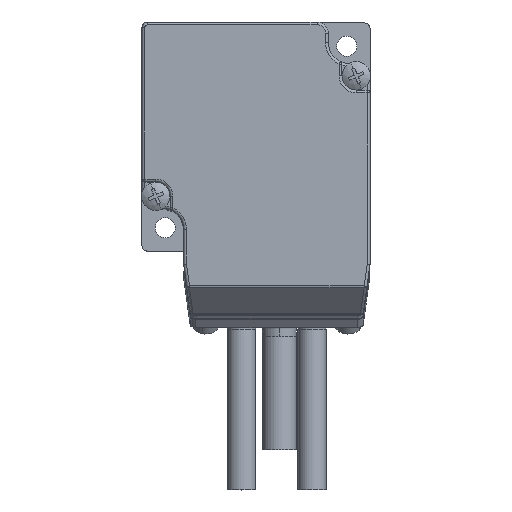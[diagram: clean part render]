
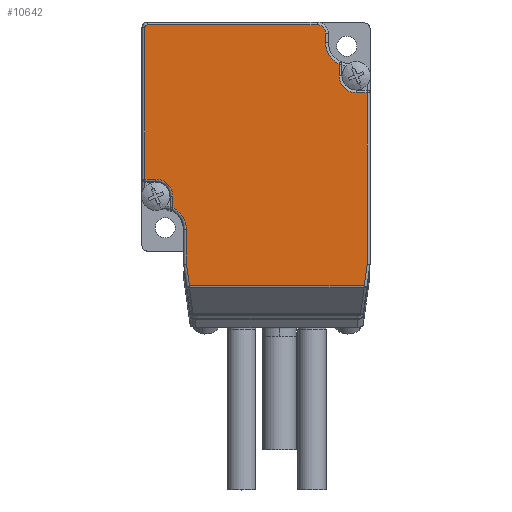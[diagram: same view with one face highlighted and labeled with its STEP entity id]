
A CAD part, top view. The second image highlights one B-rep face of the part: STEP entity #10642.
In plain terms, the highlighted planar face has unit normal (0, 0, 1).
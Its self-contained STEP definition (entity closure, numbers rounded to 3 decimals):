
#95 = ORIENTED_EDGE ( 'NONE', *, *, #609, .T. ) ;
#609 = EDGE_CURVE ( 'NONE', #3854, #14375, #1227, .T. ) ;
#761 = CARTESIAN_POINT ( 'NONE',  ( -14.572, 19., 60.9 ) ) ;
#1070 = VERTEX_POINT ( 'NONE', #21269 ) ;
#1227 = CIRCLE ( 'NONE', #15209, 4.2 ) ;
#1707 = DIRECTION ( 'NONE',  ( 1., 0., 0. ) ) ;
#1866 = ORIENTED_EDGE ( 'NONE', *, *, #14410, .T. ) ;
#1958 = LINE ( 'NONE', #20782, #26775 ) ;
#1984 = CARTESIAN_POINT ( 'NONE',  ( 12.2, 18., 60.9 ) ) ;
#2490 = AXIS2_PLACEMENT_3D ( 'NONE', #27083, #14584, #14411 ) ;
#3113 = CARTESIAN_POINT ( 'NONE',  ( 16.4, 16.4, 60.9 ) ) ;
#3388 = AXIS2_PLACEMENT_3D ( 'NONE', #13321, #19826, #15585 ) ;
#3522 = VERTEX_POINT ( 'NONE', #6889 ) ;
#3734 = CARTESIAN_POINT ( 'NONE',  ( -19.5, 19., 60.9 ) ) ;
#3836 = EDGE_CURVE ( 'NONE', #9169, #21078, #3957, .T. ) ;
#3854 = VERTEX_POINT ( 'NONE', #8298 ) ;
#3957 = LINE ( 'NONE', #17968, #23207 ) ;
#4026 = LINE ( 'NONE', #9493, #22637 ) ;
#4057 = DIRECTION ( 'NONE',  ( -1., 0., 0. ) ) ;
#4165 = CIRCLE ( 'NONE', #8704, 3. ) ;
#4670 = ORIENTED_EDGE ( 'NONE', *, *, #3836, .T. ) ;
#4737 = CARTESIAN_POINT ( 'NONE',  ( 17.572, 7.558, 60.9 ) ) ;
#4949 = AXIS2_PLACEMENT_3D ( 'NONE', #6168, #16475, #20647 ) ;
#5004 = CIRCLE ( 'NONE', #3388, 1.5 ) ;
#5389 = CARTESIAN_POINT ( 'NONE',  ( 19.5, 7.558, 60.9 ) ) ;
#5551 = CARTESIAN_POINT ( 'NONE',  ( -17.572, -7.558, 60.9 ) ) ;
#5705 = CARTESIAN_POINT ( 'NONE',  ( 14.572, 10.558, 60.9 ) ) ;
#5744 = DIRECTION ( 'NONE',  ( 0.139, 0.99, 0. ) ) ;
#6117 = DIRECTION ( 'NONE',  ( 0., 1., 0. ) ) ;
#6168 = CARTESIAN_POINT ( 'NONE',  ( 19., 19., 60.9 ) ) ;
#6170 = LINE ( 'NONE', #7996, #18229 ) ;
#6282 = VECTOR ( 'NONE', #19597, 1000. ) ;
#6538 = ORIENTED_EDGE ( 'NONE', *, *, #15326, .T. ) ;
#6566 = VECTOR ( 'NONE', #26630, 1000. ) ;
#6863 = EDGE_CURVE ( 'NONE', #9538, #8492, #4165, .T. ) ;
#6889 = CARTESIAN_POINT ( 'NONE',  ( -12.2, -22.465, 60.9 ) ) ;
#6957 = CIRCLE ( 'NONE', #7328, 0.5 ) ;
#7018 = EDGE_CURVE ( 'NONE', #25777, #9169, #6170, .T. ) ;
#7041 = DIRECTION ( 'NONE',  ( 0., 0., 1. ) ) ;
#7175 = ORIENTED_EDGE ( 'NONE', *, *, #9909, .T. ) ;
#7213 = LINE ( 'NONE', #22227, #6566 ) ;
#7328 = AXIS2_PLACEMENT_3D ( 'NONE', #25834, #7041, #15436 ) ;
#7460 = DIRECTION ( 'NONE',  ( 0., 0., -1. ) ) ;
#7515 = CARTESIAN_POINT ( 'NONE',  ( -12.2, -16.4, 60.9 ) ) ;
#7548 = LINE ( 'NONE', #4737, #7884 ) ;
#7812 = VECTOR ( 'NONE', #15983, 1000. ) ;
#7884 = VECTOR ( 'NONE', #19312, 1000. ) ;
#7996 = CARTESIAN_POINT ( 'NONE',  ( 19.438, -26.293, 60.9 ) ) ;
#8298 = CARTESIAN_POINT ( 'NONE',  ( 14.572, 12.619, 60.9 ) ) ;
#8321 = ORIENTED_EDGE ( 'NONE', *, *, #15072, .T. ) ;
#8440 = DIRECTION ( 'NONE',  ( 0., 0., -1. ) ) ;
#8492 = VERTEX_POINT ( 'NONE', #9596 ) ;
#8704 = AXIS2_PLACEMENT_3D ( 'NONE', #15769, #7460, #13956 ) ;
#8782 = DIRECTION ( 'NONE',  ( 0., -1., 0. ) ) ;
#9169 = VERTEX_POINT ( 'NONE', #14673 ) ;
#9184 = EDGE_CURVE ( 'NONE', #1070, #24652, #16190, .T. ) ;
#9478 = CARTESIAN_POINT ( 'NONE',  ( 19.5, -22.465, 60.9 ) ) ;
#9493 = CARTESIAN_POINT ( 'NONE',  ( -12.2, -22.5, 60.9 ) ) ;
#9538 = VERTEX_POINT ( 'NONE', #12200 ) ;
#9596 = CARTESIAN_POINT ( 'NONE',  ( -14.572, -10.558, 60.9 ) ) ;
#9722 = EDGE_CURVE ( 'NONE', #8492, #19702, #24956, .T. ) ;
#9909 = EDGE_CURVE ( 'NONE', #20126, #3522, #4026, .T. ) ;
#9914 = ORIENTED_EDGE ( 'NONE', *, *, #21915, .T. ) ;
#10043 = VERTEX_POINT ( 'NONE', #16437 ) ;
#10068 = CARTESIAN_POINT ( 'NONE',  ( 19.5, 8.058, 60.9 ) ) ;
#10190 = DIRECTION ( 'NONE',  ( 0., 1., 0. ) ) ;
#10413 = DIRECTION ( 'NONE',  ( 0.139, -0.99, 0. ) ) ;
#10514 = ORIENTED_EDGE ( 'NONE', *, *, #22254, .T. ) ;
#10642 = ADVANCED_FACE ( 'NONE', ( #24906 ), #23108, .T. ) ;
#11263 = EDGE_CURVE ( 'NONE', #11502, #10043, #5004, .T. ) ;
#11502 = VERTEX_POINT ( 'NONE', #1984 ) ;
#11728 = CARTESIAN_POINT ( 'NONE',  ( -19., 19.5, 60.9 ) ) ;
#12172 = VERTEX_POINT ( 'NONE', #3734 ) ;
#12200 = CARTESIAN_POINT ( 'NONE',  ( -17.572, -7.558, 60.9 ) ) ;
#13321 = CARTESIAN_POINT ( 'NONE',  ( 10.7, 18., 60.9 ) ) ;
#13333 = CARTESIAN_POINT ( 'NONE',  ( -19.5, -7.558, 60.9 ) ) ;
#13956 = DIRECTION ( 'NONE',  ( -1., 0., 0. ) ) ;
#14353 = LINE ( 'NONE', #5551, #7812 ) ;
#14371 = EDGE_CURVE ( 'NONE', #18733, #12172, #6957, .T. ) ;
#14375 = VERTEX_POINT ( 'NONE', #21701 ) ;
#14410 = EDGE_CURVE ( 'NONE', #12172, #16708, #25881, .T. ) ;
#14411 = DIRECTION ( 'NONE',  ( -1., 0., 0. ) ) ;
#14442 = CARTESIAN_POINT ( 'NONE',  ( 14.572, 19., 60.9 ) ) ;
#14584 = DIRECTION ( 'NONE',  ( 0., 0., -1. ) ) ;
#14673 = CARTESIAN_POINT ( 'NONE',  ( 18.962, -26.293, 60.9 ) ) ;
#14878 = EDGE_LOOP ( 'NONE', ( #22763, #18450, #9914, #7175, #18093, #19106, #4670, #10514, #8321, #21142, #21654, #95, #17029, #19246, #6538, #21632, #1866, #26800 ) ) ;
#14891 = VECTOR ( 'NONE', #6117, 1000. ) ;
#15072 = EDGE_CURVE ( 'NONE', #20159, #1070, #7548, .T. ) ;
#15209 = AXIS2_PLACEMENT_3D ( 'NONE', #3113, #19958, #17686 ) ;
#15326 = EDGE_CURVE ( 'NONE', #10043, #18733, #7213, .T. ) ;
#15363 = DIRECTION ( 'NONE',  ( 0., -1., 0. ) ) ;
#15436 = DIRECTION ( 'NONE',  ( -1., 0., 0. ) ) ;
#15585 = DIRECTION ( 'NONE',  ( -1., 0., 0. ) ) ;
#15769 = CARTESIAN_POINT ( 'NONE',  ( -17.572, -10.558, 60.9 ) ) ;
#15983 = DIRECTION ( 'NONE',  ( 1., 0., 0. ) ) ;
#16190 = CIRCLE ( 'NONE', #2490, 3. ) ;
#16437 = CARTESIAN_POINT ( 'NONE',  ( 10.7, 19.5, 60.9 ) ) ;
#16475 = DIRECTION ( 'NONE',  ( 0., 0., 1. ) ) ;
#16708 = VERTEX_POINT ( 'NONE', #13333 ) ;
#16855 = EDGE_CURVE ( 'NONE', #3522, #25777, #1958, .T. ) ;
#17029 = ORIENTED_EDGE ( 'NONE', *, *, #24777, .T. ) ;
#17686 = DIRECTION ( 'NONE',  ( -1., 0., 0. ) ) ;
#17968 = CARTESIAN_POINT ( 'NONE',  ( 19.505, -22.43, 60.9 ) ) ;
#18003 = CARTESIAN_POINT ( 'NONE',  ( -14.572, -12.619, 60.9 ) ) ;
#18093 = ORIENTED_EDGE ( 'NONE', *, *, #16855, .T. ) ;
#18229 = VECTOR ( 'NONE', #1707, 1000. ) ;
#18450 = ORIENTED_EDGE ( 'NONE', *, *, #9722, .T. ) ;
#18733 = VERTEX_POINT ( 'NONE', #11728 ) ;
#18905 = EDGE_CURVE ( 'NONE', #24652, #3854, #20087, .T. ) ;
#19106 = ORIENTED_EDGE ( 'NONE', *, *, #7018, .T. ) ;
#19246 = ORIENTED_EDGE ( 'NONE', *, *, #11263, .T. ) ;
#19312 = DIRECTION ( 'NONE',  ( -1., 0., 0. ) ) ;
#19597 = DIRECTION ( 'NONE',  ( 0., -1., 0. ) ) ;
#19702 = VERTEX_POINT ( 'NONE', #18003 ) ;
#19826 = DIRECTION ( 'NONE',  ( 0., 0., 1. ) ) ;
#19958 = DIRECTION ( 'NONE',  ( 0., 0., -1. ) ) ;
#20087 = LINE ( 'NONE', #14442, #14891 ) ;
#20126 = VERTEX_POINT ( 'NONE', #7515 ) ;
#20159 = VERTEX_POINT ( 'NONE', #5389 ) ;
#20203 = CIRCLE ( 'NONE', #20854, 4.2 ) ;
#20341 = VECTOR ( 'NONE', #10190, 1000. ) ;
#20645 = CARTESIAN_POINT ( 'NONE',  ( 12.2, 18., 60.9 ) ) ;
#20647 = DIRECTION ( 'NONE',  ( -1., 0., 0. ) ) ;
#20782 = CARTESIAN_POINT ( 'NONE',  ( -11.643, -26.43, 60.9 ) ) ;
#20854 = AXIS2_PLACEMENT_3D ( 'NONE', #24771, #8440, #4057 ) ;
#21078 = VERTEX_POINT ( 'NONE', #9478 ) ;
#21142 = ORIENTED_EDGE ( 'NONE', *, *, #9184, .T. ) ;
#21203 = EDGE_CURVE ( 'NONE', #16708, #9538, #14353, .T. ) ;
#21269 = CARTESIAN_POINT ( 'NONE',  ( 17.572, 7.558, 60.9 ) ) ;
#21344 = LINE ( 'NONE', #20645, #20341 ) ;
#21632 = ORIENTED_EDGE ( 'NONE', *, *, #14371, .T. ) ;
#21654 = ORIENTED_EDGE ( 'NONE', *, *, #18905, .T. ) ;
#21701 = CARTESIAN_POINT ( 'NONE',  ( 12.2, 16.4, 60.9 ) ) ;
#21915 = EDGE_CURVE ( 'NONE', #19702, #20126, #20203, .T. ) ;
#22018 = VECTOR ( 'NONE', #8782, 1000. ) ;
#22227 = CARTESIAN_POINT ( 'NONE',  ( -19., 19.5, 60.9 ) ) ;
#22254 = EDGE_CURVE ( 'NONE', #21078, #20159, #23105, .T. ) ;
#22637 = VECTOR ( 'NONE', #15363, 1000. ) ;
#22641 = DIRECTION ( 'NONE',  ( 0., 1., 0. ) ) ;
#22763 = ORIENTED_EDGE ( 'NONE', *, *, #6863, .T. ) ;
#23105 = LINE ( 'NONE', #10068, #26414 ) ;
#23108 = PLANE ( 'NONE',  #4949 ) ;
#23207 = VECTOR ( 'NONE', #5744, 1000. ) ;
#24059 = CARTESIAN_POINT ( 'NONE',  ( -19.5, -8.058, 60.9 ) ) ;
#24652 = VERTEX_POINT ( 'NONE', #5705 ) ;
#24771 = CARTESIAN_POINT ( 'NONE',  ( -16.4, -16.4, 60.9 ) ) ;
#24777 = EDGE_CURVE ( 'NONE', #14375, #11502, #21344, .T. ) ;
#24906 = FACE_OUTER_BOUND ( 'NONE', #14878, .T. ) ;
#24956 = LINE ( 'NONE', #761, #22018 ) ;
#25777 = VERTEX_POINT ( 'NONE', #26368 ) ;
#25834 = CARTESIAN_POINT ( 'NONE',  ( -19., 19., 60.9 ) ) ;
#25881 = LINE ( 'NONE', #24059, #6282 ) ;
#26368 = CARTESIAN_POINT ( 'NONE',  ( -11.662, -26.293, 60.9 ) ) ;
#26414 = VECTOR ( 'NONE', #22641, 1000. ) ;
#26630 = DIRECTION ( 'NONE',  ( -1., 0., 0. ) ) ;
#26775 = VECTOR ( 'NONE', #10413, 1000. ) ;
#26800 = ORIENTED_EDGE ( 'NONE', *, *, #21203, .T. ) ;
#27083 = CARTESIAN_POINT ( 'NONE',  ( 17.572, 10.558, 60.9 ) ) ;
